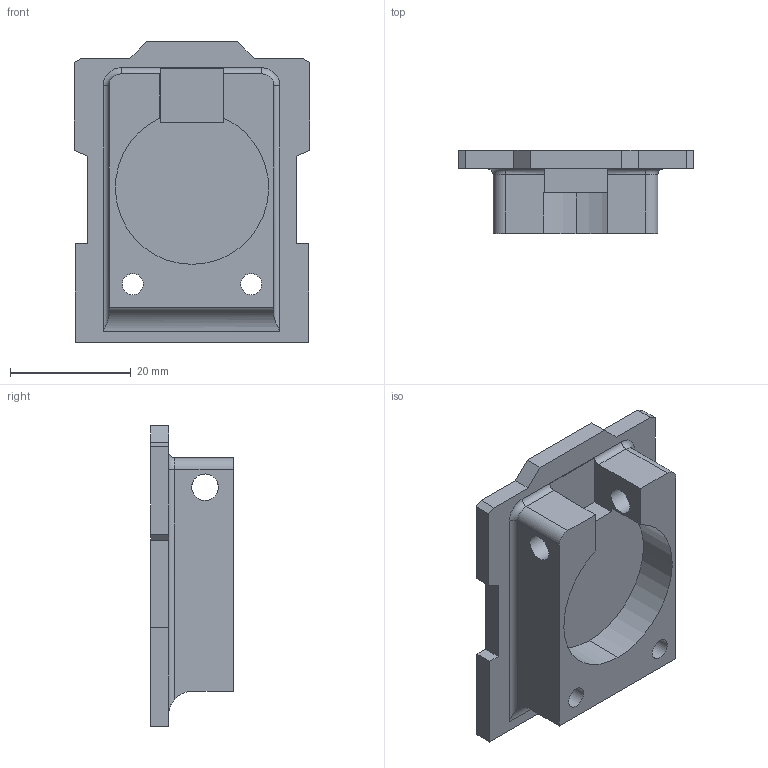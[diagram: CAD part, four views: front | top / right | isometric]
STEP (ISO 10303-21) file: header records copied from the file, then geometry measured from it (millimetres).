
FILE_DESCRIPTION(('HOOPS Exchange Step'),'2;1');
FILE_NAME('/private/var/mobile/Containers/Data/Application/6645FEE8-917D-41E1-B4AE-5ED5900E217E/tmp/export/temp_export','2026-06-06T14:08:41-05:00',('mobile'),('Shapr3D Limited'),'HOOPS Exchange 2026.3','Shapr3D','Authorized');
FILE_SCHEMA( ('AP242_MANAGED_MODEL_BASED_3D_ENGINEERING_MIM_LF {1 0 10303 442 1 1 4}') );
Length unit declared in the file: millimetre
Products named in the file (5): Back plate; Upper receiver; Done; BCG Plate.step; root
Assembly tree (4 placements, depth 5):
  root
    BCG Plate.step
      Done
        Upper receiver
          Back plate
Bounding box: 39.02 x 13.75 x 49.83 mm (x, y, z)
Volume: 12010.2 mm3; surface area: 6533 mm2
Topology: 1 solids, 1 shells, 51 faces, 137 edges, 90 vertices
Faces by surface type: plane 35, cylinder 14, torus 2
Full cylindrical faces by diameter (mm): 3.5 x2, 4.4 x2, 6 x2
Entity records: 1763 total; most frequent: CARTESIAN_POINT 312, DIRECTION 289, ORIENTED_EDGE 274, EDGE_CURVE 137, VECTOR 103, LINE 103, AXIS2_PLACEMENT_3D 93, VERTEX_POINT 90
